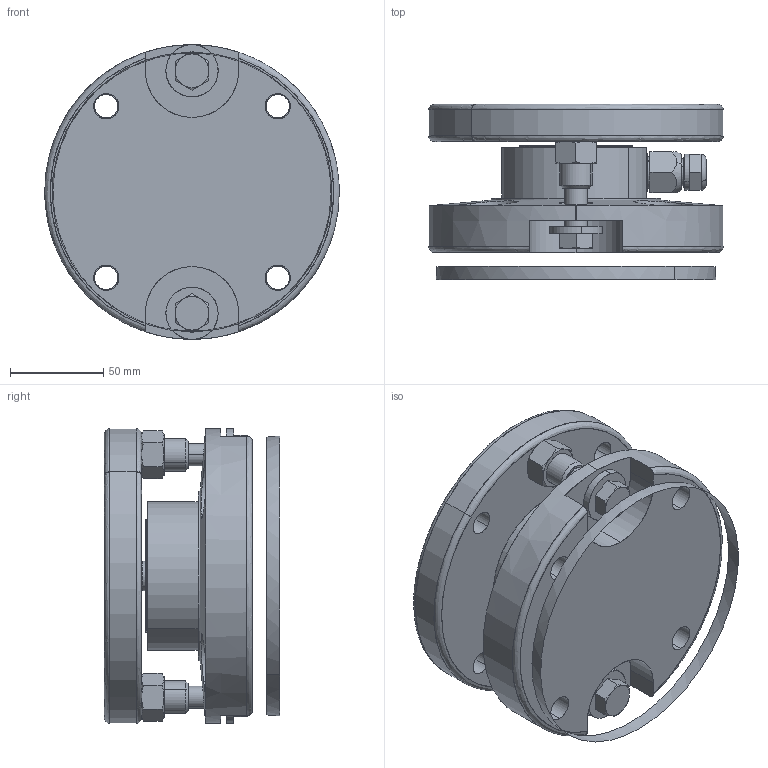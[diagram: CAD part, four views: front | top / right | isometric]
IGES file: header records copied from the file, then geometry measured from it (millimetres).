
Start section: SolidWorks IGES file using analytic representation for surfaces
Global section: file name: C:\0_Work\SolidWorks\HI HPLP Load Points\HI HPLP Load Point_1.1KLB-11KLB\Load Point_HI HPLP-XX-1.1KLB-11KLB.IGS; native system: SolidWorks 2013; preprocessor: SolidWorks 2013; author: vach01; date: 130927.094302; units: millimetre
Bounding box: 157.95 x 93.99 x 158 mm (x, y, z)
Surface area: 184350.7 mm2 (no closed solid volume)
Topology: 0 solids, 0 shells, 619 faces, 9332 edges, 9324 vertices
Faces by surface type: revolution 461, bspline 158
